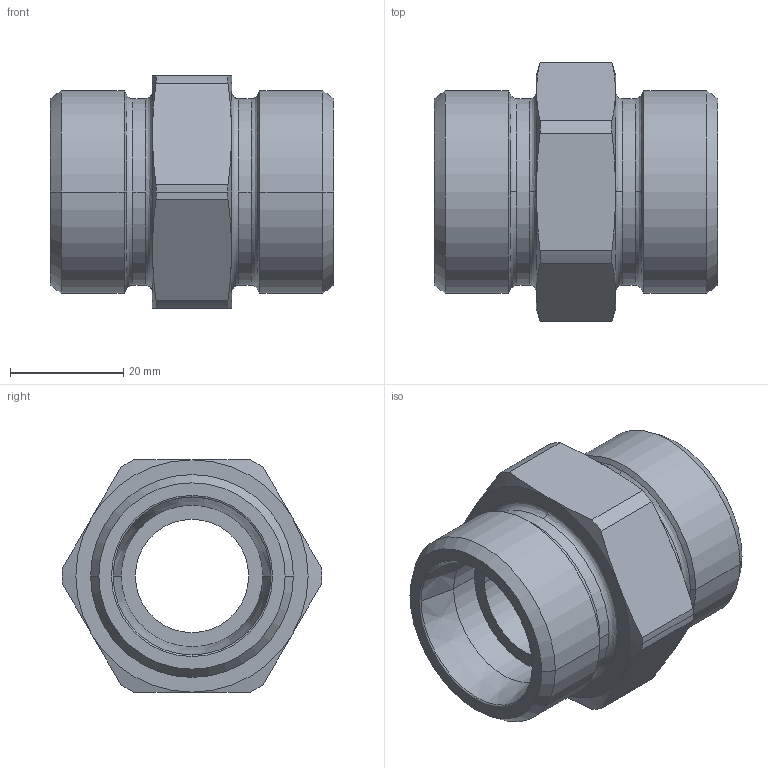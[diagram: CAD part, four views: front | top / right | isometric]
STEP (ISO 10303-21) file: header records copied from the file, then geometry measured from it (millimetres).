
FILE_DESCRIPTION((''),'2;1');
FILE_NAME('103521.stp','2007-10-31T11:32:32',(''),(''),'AutoCAD STEP 2000i','AutoCAD 2000i',', , ');
FILE_SCHEMA(('CONFIG_CONTROL_DESIGN'));
Length unit declared in the file: millimetre
Products named in the file (2): 103521.0; CHIAVE SMUSSATA#0
Assembly tree (1 placements, depth 2):
  103521.0
    CHIAVE SMUSSATA#0
Bounding box: 50 x 45.9 x 41 mm (x, y, z)
Volume: 34008.3 mm3; surface area: 11619.7 mm2
Topology: 1 solids, 1 shells, 70 faces, 172 edges, 108 vertices
Faces by surface type: cone 24, cylinder 22, plane 12, bspline 8, torus 4
Entity records: 2513 total; most frequent: CARTESIAN_POINT 752, DIRECTION 384, ORIENTED_EDGE 344, AXIS2_PLACEMENT_3D 172, EDGE_CURVE 172, VERTEX_POINT 108, CIRCLE 108, EDGE_LOOP 76
